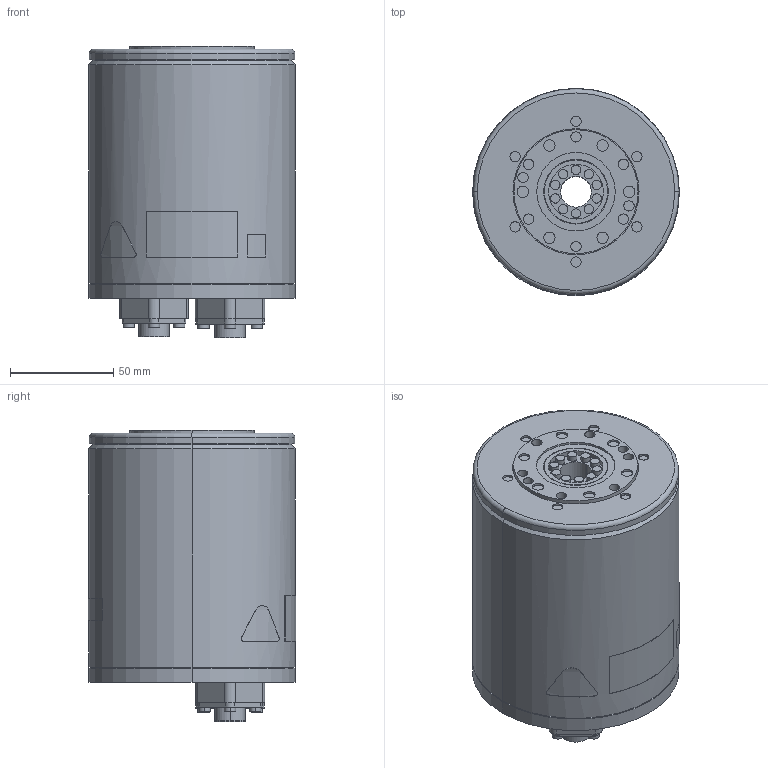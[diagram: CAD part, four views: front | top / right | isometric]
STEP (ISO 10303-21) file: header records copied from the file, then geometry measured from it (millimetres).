
FILE_DESCRIPTION (( 'STEP AP203' ), '1' );
FILE_NAME ('sgm7f_07a_a1_.STEP', '2016-08-04T03:52:15', ( '' ), ( '' ), 'SwSTEP 2.0', 'SolidWorks 2010', '' );
FILE_SCHEMA (( 'CONFIG_CONTROL_DESIGN' ));
Length unit declared in the file: millimetre
Products named in the file (1): sgm7f_07a_a1_
Bounding box: 100 x 100.2 x 141.1 mm (x, y, z)
Volume: 940026.5 mm3; surface area: 67463 mm2
Topology: 1 solids, 1 shells, 348 faces, 769 edges, 510 vertices
Faces by surface type: cylinder 191, plane 146, bspline 5, cone 4, torus 2
Entity records: 10058 total; most frequent: CARTESIAN_POINT 1885, DIRECTION 1847, ORIENTED_EDGE 1538, EDGE_CURVE 769, AXIS2_PLACEMENT_3D 750, VERTEX_POINT 510, EDGE_LOOP 437, CIRCLE 406
